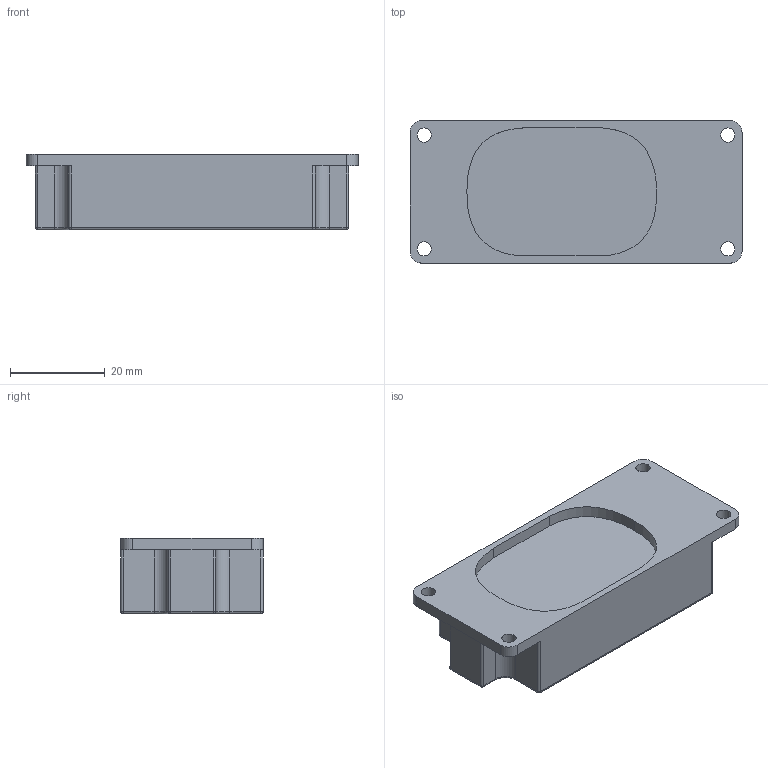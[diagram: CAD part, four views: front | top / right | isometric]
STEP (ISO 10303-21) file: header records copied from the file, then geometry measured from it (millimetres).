
FILE_DESCRIPTION(('HOOPS Exchange Step'),'2;1');
FILE_NAME('/private/var/mobile/Containers/Data/Application/ED4C2A4C-7E5D-45B7-BA36-C01864C68EB8/tmp/export/temp_export','2020-11-17T12:52:11+01:00',('mobile'),('Shapr3D Limited'),'HOOPS Exchange 2020.2','Shapr3D','Authorized');
FILE_SCHEMA( ('AP203_CONFIGURATION_CONTROLLED_3D_DESIGN_OF_MECHANICAL_PARTS_AND_ASSEMBLIES_MIM_LF') );
Length unit declared in the file: millimetre
Products named in the file (1): /var/mobile/Containers/Data/Application/ED4C2A4C-7E5D-45B7-BA36-C01864C68EB8/Documents/B70B83FD-048E-4DC3-8234-7F46123334F2.tmp
Bounding box: 70 x 30 x 16 mm (x, y, z)
Volume: 25787 mm3; surface area: 7461.6 mm2
Topology: 1 solids, 1 shells, 69 faces, 174 edges, 100 vertices
Faces by surface type: cylinder 32, plane 21, sphere 8, torus 4, bspline 4
Full cylindrical faces by diameter (mm): 3 x4
Entity records: 2044 total; most frequent: CARTESIAN_POINT 376, DIRECTION 358, ORIENTED_EDGE 332, EDGE_CURVE 166, AXIS2_PLACEMENT_3D 134, VERTEX_POINT 100, VECTOR 90, LINE 90
